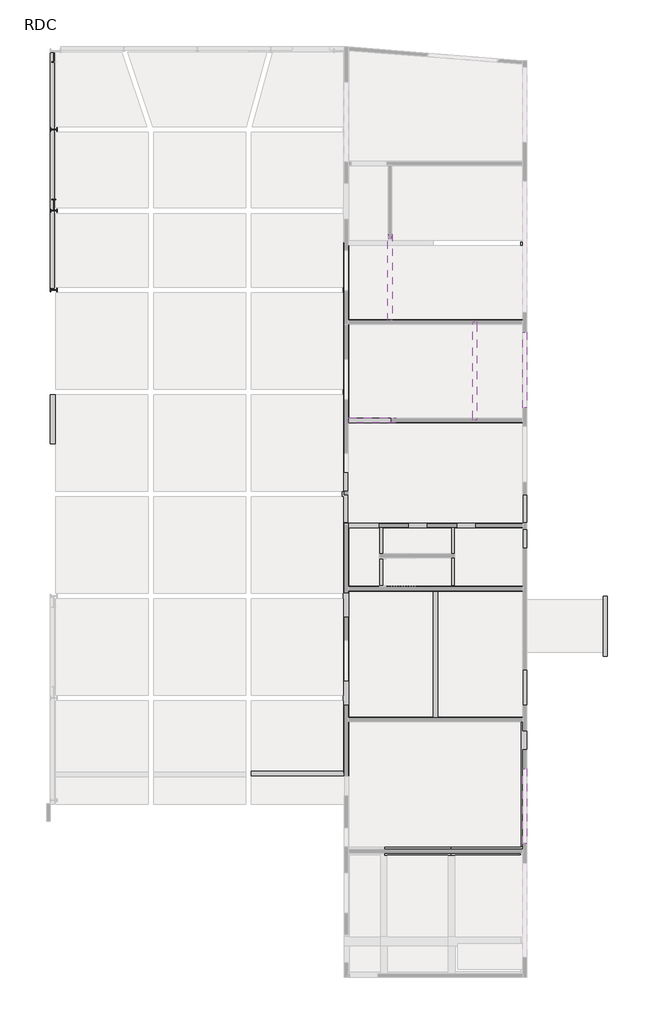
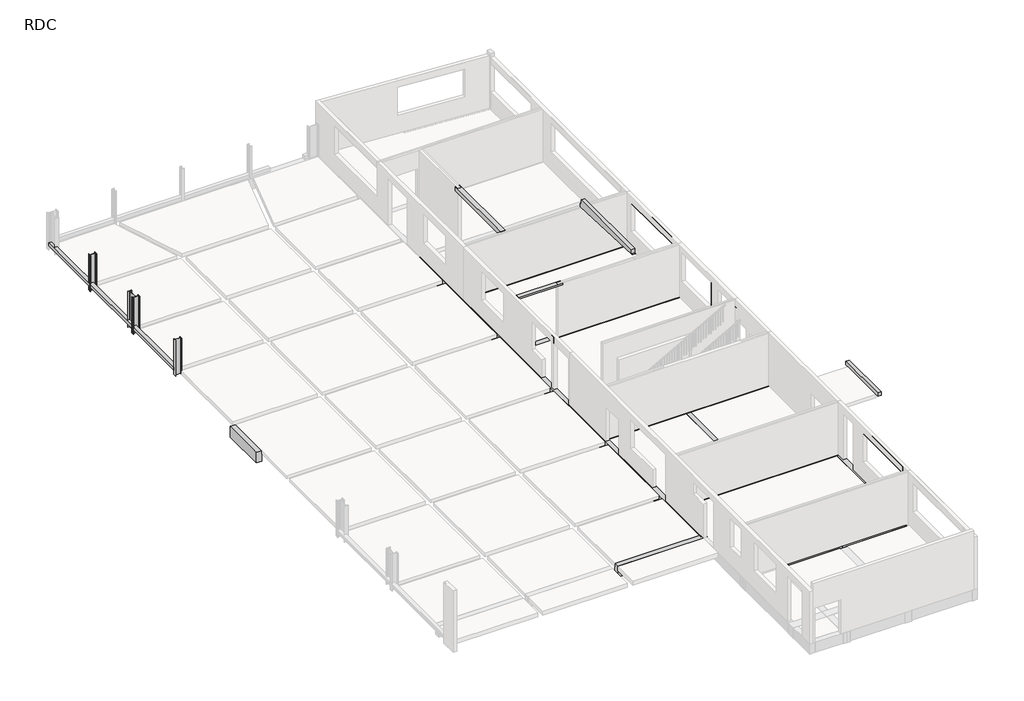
# One storey, part 3 of 4: 38 beams, 8 columns.
"""IFC4 building model written with IfcOpenShell, lengths in millimetres."""

from ifc_helpers import new_model, si_unit, frame, origin, origin_with_axes, place, context, project, spatial, polyline, outline, extrude, faceted_brep, transform, mapped, element, save
from components import ipe360_f3b70704, ipe600_4712eb6f

model = new_model("IFC4")

# Units and contexts
model_context = context("Model", 3, world=origin())
ifc_project = project(units=[si_unit("LENGTHUNIT", "METRE", prefix="MILLI")], contexts=[model_context])

# Site, building, storey
site = spatial("IfcSite", under=ifc_project)
building = spatial("IfcBuilding", under=site)
storey = spatial("IfcBuildingStorey", under=building, Name="RDC", Elevation=0.0)

# Beams
placement = place(None, origin())
element("IfcBeam", 1, ObjectType="Relevé : 20x20h", at=placement, inside=storey, context=model_context, shape_type="Brep", body=[
    faceted_brep([(14769.048278, 62835.2867291, 200.0), (14769.048278, 62835.2867291, 0.0), (14969.048278, 62835.2867291, 0.0), (14969.048278, 62835.2867291, 200.0), (14769.048278, 75324.2867291, 200.0), (14969.048278, 75324.2867291, 200.0), (14969.048278, 75324.2867291, 0.0), (14769.048278, 75324.2867291, 0.0), (14769.048278, 71335.7608439, 0.0), (14769.048278, 71164.2771549, 0.0), (14769.048278, 66799.8020807, 0.0)], [[[0, 1, 2, 3]], [[4, 5, 6, 7]], [[1, 0, 4, 7, 8, 9, 10]], [[2, 1, 10, 9, 8, 7, 6]], [[3, 2, 6, 5]], [[0, 3, 5, 4]]]),
])
element("IfcBeam", 2, ObjectType="Relevé : 20x20h", at=placement, inside=storey, context=model_context, shape_type="SweptSolid", body=[
    extrude(outline(polyline([(44059.0482776, 46542.4600761), (44259.0482776, 46542.4600761), (44259.0482776, 43363.0600761), (44059.0482776, 43363.0600761), (44059.0482776, 46542.4600761)])), frame((0.0, 0.0, -20.0), z_axis=(0.0, 0.0, 1.0), x_axis=(1.0, 0.0, 0.0)), (0.0, 0.0, 1.0), 200.0),
])
element("IfcBeam", 3, ObjectType="Longrine : 20x65h", at=placement, inside=storey, context=model_context, shape_type="Brep", body=[
    faceted_brep([(36189.0482771, 50379.8020815, -650.0), (36189.0482771, 50379.8020815, 0.0), (36189.0482771, 50129.8020815, 0.0), (36189.0482771, 48779.8020815, 0.0), (36189.0482771, 48579.8020815, 0.0), (36189.0482771, 47079.8020813, 0.0), (36189.0482771, 47079.8020813, -200.0), (36189.0482771, 47079.8020813, -650.0), (36189.0482771, 50129.8020815, -650.0), (35989.0482771, 50379.8020815, -650.0), (35989.0482771, 47079.8020813, -650.0), (35989.0482771, 48579.8020815, -650.0), (35989.0482771, 48779.8020815, -650.0), (35989.0482771, 50129.8020815, -650.0), (35989.0482771, 50379.8020815, 0.0), (35989.0482771, 47079.8020813, -200.0), (35989.0482771, 47079.8020813, 0.0), (35989.0482771, 48579.8020815, 0.0), (35989.0482771, 48779.8020815, 0.0), (35989.0482771, 50129.8020815, 0.0)], [[[0, 1, 2, 3, 4, 5, 6, 7, 8]], [[9, 0, 8, 7, 10, 11, 12, 13]], [[14, 9, 13, 12, 11, 10, 15, 16, 17, 18, 19]], [[1, 14, 19, 18, 17, 16, 5, 4, 3, 2]], [[1, 0, 9, 14]], [[7, 6, 5, 16, 15, 10]]]),
])
element("IfcBeam", 4, ObjectType="Longrine : 20x65h", at=placement, inside=storey, context=model_context, shape_type="Brep", body=[
    faceted_brep([(32199.048278, 50379.8020815, 0.0), (32199.048278, 50379.8020815, -650.0), (32199.048278, 50129.8020815, -650.0), (32199.048278, 47079.8020813, -650.0), (32199.048278, 47079.8020813, -200.0), (32199.048278, 47079.8020813, 0.0), (32199.048278, 48579.8020815, 0.0), (32199.048278, 48779.8020815, 0.0), (32199.048278, 50129.8020815, 0.0), (32399.048278, 50379.8020815, -650.0), (32399.048278, 50129.8020815, -650.0), (32399.048278, 48779.8020815, -650.0), (32399.048278, 48579.8020815, -650.0), (32399.048278, 47079.8020813, -650.0), (32399.048278, 50379.8020815, 0.0), (32399.048278, 50129.8020815, 0.0), (32399.048278, 48779.8020815, 0.0), (32399.048278, 48579.8020815, 0.0), (32399.048278, 47079.8020813, 0.0), (32399.048278, 47079.8020813, -200.0)], [[[0, 1, 2, 3, 4, 5, 6, 7, 8]], [[1, 9, 10, 11, 12, 13, 3, 2]], [[9, 14, 15, 16, 17, 18, 19, 13, 12, 11, 10]], [[14, 0, 8, 7, 6, 5, 18, 17, 16, 15]], [[1, 0, 14, 9]], [[5, 4, 3, 13, 19, 18]]]),
])
element("IfcBeam", 5, ObjectType="Longrine : 20x65h", at=placement, inside=storey, context=model_context, shape_type="Brep", body=[
    faceted_brep([(35989.0482771, 48779.8020815, 0.0), (35989.0482771, 48779.8020815, -200.0), (35989.0482771, 48779.8020815, -650.0), (32399.048278, 48779.8020815, -650.0), (32399.048278, 48779.8020815, -200.0), (32399.048278, 48779.8020815, 0.0), (35989.0482771, 48579.8020815, -650.0), (32399.048278, 48579.8020815, -650.0), (35989.0482771, 48579.8020815, -200.0), (35989.0482771, 48579.8020815, 0.0), (32399.048278, 48579.8020815, 0.0), (32399.048278, 48579.8020815, -200.0)], [[[0, 1, 2, 3, 4, 5]], [[2, 6, 7, 3]], [[6, 8, 9, 10, 11, 7]], [[9, 0, 5, 10]], [[2, 1, 0, 9, 8, 6]], [[5, 4, 3, 7, 11, 10]]]),
])
element("IfcBeam", 6, ObjectType="Longrine : 30x65h", at=placement, inside=storey, context=model_context, shape_type="Brep", body=[
    faceted_brep([(39989.0482781, 61149.8020814, -650.0), (39989.0482781, 61149.8020814, 0.0), (39989.0482781, 55699.8020814, 0.0), (39989.0482781, 55699.8020814, -650.0), (39689.0482781, 61149.8020814, -650.0), (39689.0482781, 55699.8020814, -650.0), (39689.0482781, 55999.8020814, -650.0), (39689.0482781, 60899.8020814, -650.0), (39689.0482781, 61149.8020814, 0.0), (39689.0482781, 55699.8020814, -200.0), (39689.0482781, 55699.8020814, 0.0), (39689.0482781, 55999.8020814, 0.0), (39689.0482781, 55999.8020814, -200.0), (39689.0482781, 60899.8020814, -200.0), (39689.0482781, 60899.8020814, 0.0), (39789.0482781, 61149.8020814, 0.0), (39789.0482781, 60899.8020814, 0.0), (39789.0482781, 55999.8020814, 0.0), (39789.0482781, 55699.8020814, 0.0), (39789.0482781, 55999.8020814, -200.0), (39789.0482781, 60899.8020814, -200.0)], [[[0, 1, 2, 3]], [[4, 0, 3, 5, 6, 7]], [[8, 4, 7, 6, 5, 9, 10, 11, 12, 13, 14]], [[1, 15, 8, 14, 16, 17, 11, 10, 18, 2]], [[1, 0, 4, 8, 15]], [[3, 2, 18, 10, 9, 5]], [[19, 20, 13, 12]], [[20, 16, 14, 13]], [[17, 19, 12, 11]], [[20, 19, 17, 16]]]),
])
element("IfcBeam", 7, ObjectType="Longrine : 30x65h", at=placement, inside=storey, context=model_context, shape_type="Brep", body=[
    faceted_brep([(39989.0482781, 39849.8020813, 0.0), (39989.0482781, 39849.8020813, -650.0), (39989.0482781, 43362.7519336, -650.0), (39989.0482781, 43562.7519336, -650.0), (39989.0482781, 46342.7522291, -650.0), (39989.0482781, 46529.8020813, -650.0), (39989.0482781, 46542.7522291, -650.0), (39989.0482781, 47029.8020813, -650.0), (39989.0482781, 47029.8020813, 0.0), (39989.0482781, 42651.8519336, 0.0), (39989.0482781, 40761.8519336, 0.0), (39689.0482781, 39849.8020813, -650.0), (39689.0482781, 40149.8020813, -650.0), (39689.0482781, 43362.7519336, -650.0), (39689.0482781, 43562.7519336, -650.0), (39689.0482781, 46342.7522291, -650.0), (39689.0482781, 46529.8020813, -650.0), (39689.0482781, 46779.8020813, -650.0), (39689.0482781, 47029.8020813, -650.0), (39689.0482781, 39849.8020813, 0.0), (39689.0482781, 40149.8020813, 0.0), (39689.0482781, 40149.8020813, -200.0), (39689.0482781, 46779.8020813, -200.0), (39689.0482781, 46779.8020813, 0.0), (39689.0482781, 47029.8020813, 0.0), (39789.0482781, 47029.8020813, 0.0), (39789.0482781, 46779.8020813, 0.0), (39789.0482781, 42651.8519336, 0.0), (39789.0482781, 40761.8519336, 0.0), (39789.0482781, 40149.8020813, 0.0), (39789.0482781, 40149.8020813, -200.0), (39789.0482781, 46779.8020813, -200.0)], [[[0, 1, 2, 3, 4, 5, 6, 7, 8, 9, 10]], [[1, 11, 12, 13, 14, 15, 16, 17, 18, 7, 6, 5, 4, 3, 2]], [[11, 19, 20, 21, 22, 23, 24, 18, 17, 16, 15, 14, 13, 12]], [[19, 0, 10, 9, 8, 25, 24, 23, 26, 27, 28, 29, 20]], [[1, 0, 19, 11]], [[8, 7, 18, 24, 25]], [[30, 31, 22, 21]], [[31, 30, 29, 28, 27, 26]], [[29, 30, 21, 20]], [[31, 26, 23, 22]]]),
])
element("IfcBeam", 8, ObjectType="Longrine : 30x65h", at=placement, inside=storey, context=model_context, shape_type="Brep", body=[
    faceted_brep([(39989.0482781, 50129.8020815, 0.0), (39989.0482781, 50129.8020815, -650.0), (39989.0482781, 55699.8020814, -650.0), (39989.0482781, 55699.8020814, 0.0), (39989.0482781, 52574.8020814, 0.0), (39989.0482781, 51924.8020814, 0.0), (39989.0482781, 51919.8020814, 0.0), (39989.0482781, 50429.8020814, 0.0), (39689.0482781, 50129.8020815, -650.0), (39689.0482781, 50429.8020815, -650.0), (39689.0482781, 55699.8020814, -650.0), (39689.0482781, 50129.8020815, -200.0), (39689.0482781, 50129.8020815, 0.0), (39689.0482781, 50429.8020815, 0.0), (39689.0482781, 50429.8020815, -200.0), (39689.0482781, 55699.8020814, -200.0), (39789.0482781, 50129.8020815, 0.0), (39789.0482781, 55699.8020814, 0.0), (39789.0482781, 52574.8020814, 0.0), (39789.0482781, 51924.8020814, 0.0), (39789.0482781, 51919.8020814, 0.0), (39789.0482781, 50429.8020815, 0.0), (39789.0482781, 50429.8020815, -200.0), (39789.0482781, 55699.8020814, -200.0)], [[[0, 1, 2, 3, 4, 5, 6, 7]], [[1, 8, 9, 10, 2]], [[8, 11, 12, 13, 14, 15, 10, 9]], [[12, 16, 0, 7, 6, 5, 4, 3, 17, 18, 19, 20, 21, 13]], [[1, 0, 16, 12, 11, 8]], [[22, 23, 15, 14]], [[23, 22, 21, 20, 19, 18, 17]], [[21, 22, 14, 13]], [[2, 10, 15, 23, 17, 3]]]),
])
element("IfcBeam", 9, ObjectType="Longrine : 30x65h", at=placement, inside=storey, context=model_context, shape_type="Brep", body=[
    faceted_brep([(39989.0482781, 50129.8020815, 0.0), (39989.0482781, 50069.8020814, 0.0), (39989.0482781, 49069.8020814, 0.0), (39989.0482781, 47029.8020813, 0.0), (39989.0482781, 47029.8020813, -650.0), (39989.0482781, 50129.8020815, -650.0), (39689.0482781, 47029.8020813, -650.0), (39689.0482781, 47079.8020813, -650.0), (39689.0482781, 50129.8020815, -650.0), (39689.0482781, 47029.8020813, 0.0), (39689.0482781, 47079.8020813, 0.0), (39689.0482781, 47079.8020813, -200.0), (39689.0482781, 50129.8020815, -200.0), (39789.0482781, 50129.8020815, 0.0), (39789.0482781, 50069.8020814, 0.0), (39789.0482781, 49069.8020814, 0.0), (39789.0482781, 47079.8020813, 0.0), (39789.0482781, 47079.8020813, -200.0), (39789.0482781, 50129.8020815, -200.0)], [[[0, 1, 2, 3, 4, 5]], [[5, 4, 6, 7, 8]], [[6, 9, 10, 11, 12, 8, 7]], [[3, 2, 1, 0, 13, 14, 15, 16, 10, 9]], [[17, 18, 12, 11]], [[18, 17, 16, 15, 14, 13]], [[16, 17, 11, 10]], [[4, 3, 9, 6]], [[0, 5, 8, 12, 18, 13]]]),
])
element("IfcBeam", 10, ObjectType="Longrine : 30x65h", at=placement, inside=storey, context=model_context, shape_type="Brep", body=[
    faceted_brep([(39989.0482781, 65289.8020814, -650.0), (39989.0482781, 65289.8020814, 0.0), (39989.0482781, 61149.8020814, 0.0), (39989.0482781, 61149.8020814, -650.0), (39689.0482781, 65289.8020814, -650.0), (39689.0482781, 61149.8020814, -650.0), (39689.0482781, 61199.8020814, -650.0), (39689.0482781, 65289.8020814, 0.0), (39689.0482781, 61149.8020814, 0.0), (39689.0482781, 61199.8020814, 0.0), (39689.0482781, 61199.8020814, -200.0), (39689.0482781, 65099.8020814, -200.0), (39689.0482781, 65099.8020814, 0.0), (39789.0482781, 65099.8020814, 0.0), (39789.0482781, 61199.8020814, 0.0), (39789.0482781, 61199.8020814, -200.0), (39789.0482781, 65099.8020814, -200.0)], [[[0, 1, 2, 3]], [[4, 0, 3, 5, 6]], [[7, 4, 6, 5, 8, 9, 10, 11, 12]], [[1, 7, 12, 13, 14, 9, 8, 2]], [[1, 0, 4, 7]], [[15, 16, 11, 10]], [[16, 13, 12, 11]], [[14, 15, 10, 9]], [[16, 15, 14, 13]], [[3, 2, 8, 5]]]),
])
element("IfcBeam", 11, ObjectType="Longrine : 30x65h", at=placement, inside=storey, context=model_context, shape_type="Brep", body=[
    faceted_brep([(39689.0482781, 39849.8020813, 0.0), (39689.0482781, 39849.8020813, -250.0), (39689.0482781, 39849.8020813, -650.0), (39689.0482781, 33279.8020807, -650.0), (39689.0482781, 33279.8020807, -250.0), (39689.0482781, 33279.8020807, 0.0), (39989.0482781, 39849.8020813, -650.0), (39989.0482781, 33279.8020807, -650.0), (39989.0482781, 39849.8020813, 0.0), (39989.0482781, 39411.8519337, 0.0), (39989.0482781, 38411.8519337, 0.0), (39989.0482781, 33279.8020807, 0.0)], [[[0, 1, 2, 3, 4, 5]], [[2, 6, 7, 3]], [[6, 8, 9, 10, 11, 7]], [[8, 0, 5, 11, 10, 9]], [[5, 4, 3, 7, 11]], [[2, 1, 0, 8, 6]]]),
])
element("IfcBeam", 12, ObjectType="Longrine : 30x65h", at=placement, inside=storey, context=model_context, shape_type="Brep", body=[
    faceted_brep([(30589.0482779, 61049.8020814, 0.0), (30589.0482779, 61049.8020814, -650.0), (30589.0482779, 61199.8020814, -650.0), (30589.0482779, 65099.8020814, -650.0), (30589.0482779, 65099.8020814, -200.0), (30589.0482779, 65099.8020814, 0.0), (30589.0482779, 61199.8020814, 0.0), (30289.0482779, 61049.8020814, -650.0), (30289.0482779, 62602.7522291, -650.0), (30289.0482779, 62902.7522291, -650.0), (30289.0482779, 65249.8020814, -650.0), (30339.0482779, 65249.8020814, -650.0), (30339.0482779, 65099.8020814, -650.0), (30289.0482779, 61049.8020814, 0.0), (30289.0482779, 62602.7522291, 0.0), (30289.0482779, 62902.7522291, 0.0), (30289.0482779, 65249.8020814, 0.0), (30339.0482779, 65099.8020814, 0.0), (30339.0482779, 65249.8020814, 0.0)], [[[0, 1, 2, 3, 4, 5, 6]], [[7, 8, 9, 10, 11, 12, 3, 2, 1]], [[10, 9, 8, 7, 13, 14, 15, 16]], [[16, 15, 14, 13, 0, 6, 5, 17, 18]], [[12, 17, 5, 4, 3]], [[0, 13, 7, 1]], [[10, 16, 18, 11]], [[17, 12, 11, 18]]]),
])
element("IfcBeam", 13, ObjectType="Longrine : 30x65h", at=placement, inside=storey, context=model_context, shape_type="Brep", body=[
    faceted_brep([(30289.0482779, 61049.8020814, 0.0), (30289.0482779, 61049.8020814, -650.0), (30289.0482779, 57499.8020807, -650.0), (30289.0482779, 57199.8020807, -650.0), (30289.0482779, 55849.8020814, -650.0), (30289.0482779, 55699.8020814, -650.0), (30289.0482779, 55699.8020814, -200.0), (30289.0482779, 55699.8020814, 0.0), (30289.0482779, 57199.8020807, 0.0), (30289.0482779, 57499.8020807, 0.0), (30589.0482779, 61049.8020814, -650.0), (30589.0482779, 60899.8020814, -650.0), (30589.0482779, 55999.8020814, -650.0), (30339.0482779, 55999.8020814, -650.0), (30339.0482779, 55699.8020814, -650.0), (30589.0482779, 61049.8020814, 0.0), (30589.0482779, 60899.8020814, 0.0), (30589.0482779, 55999.8020814, 0.0), (30589.0482779, 55999.8020814, -200.0), (30339.0482779, 55699.8020814, 0.0), (30339.0482779, 55999.8020814, 0.0)], [[[0, 1, 2, 3, 4, 5, 6, 7, 8, 9]], [[1, 10, 11, 12, 13, 14, 5, 4, 3, 2]], [[10, 15, 16, 17, 18, 12, 11]], [[15, 0, 9, 8, 7, 19, 20, 17, 16]], [[0, 15, 10, 1]], [[7, 6, 5, 14, 19]], [[20, 13, 12, 18, 17]], [[13, 20, 19, 14]]]),
])
element("IfcBeam", 14, ObjectType="Longrine : 30x65h", at=placement, inside=storey, context=model_context, shape_type="Brep", body=[
    faceted_brep([(35054.0482776, 61199.8020814, -650.0), (35054.0482776, 61199.8020814, 0.0), (39689.0482781, 61199.8020814, 0.0), (39689.0482781, 61199.8020814, -200.0), (39689.0482781, 61199.8020814, -650.0), (39689.0482781, 61149.8020814, -650.0), (39689.0482781, 60899.8020814, -650.0), (35054.0482776, 60899.8020814, -650.0), (39689.0482781, 60899.8020814, -200.0), (39689.0482781, 60899.8020814, 0.0), (35054.0482776, 60899.8020814, 0.0), (39689.0482781, 61149.8020814, 0.0)], [[[0, 1, 2, 3, 4]], [[4, 5, 6, 7, 0]], [[7, 6, 8, 9, 10]], [[10, 9, 11, 2, 1]], [[4, 3, 2, 11, 9, 8, 6, 5]], [[1, 0, 7, 10]]]),
])
element("IfcBeam", 15, ObjectType="Longrine : 30x65h", at=placement, inside=storey, context=model_context, shape_type="Brep", body=[
    faceted_brep([(35054.0482776, 60899.8020814, -650.0), (35054.0482776, 60899.8020814, 0.0), (30589.0482779, 60899.8020814, 0.0), (30589.0482779, 60899.8020814, -200.0), (30589.0482779, 60899.8020814, -650.0), (35054.0482776, 61199.8020814, -650.0), (30589.0482779, 61049.8020814, -650.0), (30589.0482779, 61199.8020814, -650.0), (35054.0482776, 61199.8020814, 0.0), (30589.0482779, 61199.8020814, -200.0), (30589.0482779, 61199.8020814, 0.0), (30589.0482779, 61049.8020814, 0.0)], [[[0, 1, 2, 3, 4]], [[5, 0, 4, 6, 7]], [[8, 5, 7, 9, 10]], [[1, 8, 10, 11, 2]], [[1, 0, 5, 8]], [[4, 3, 2, 11, 10, 9, 7, 6]]]),
])
element("IfcBeam", 16, ObjectType="Longrine : 30x65h", at=placement, inside=storey, context=model_context, shape_type="Brep", body=[
    faceted_brep([(32179.048278, 47079.8020813, -650.0), (32179.048278, 47079.8020813, 0.0), (32199.048278, 47079.8020813, 0.0), (32399.048278, 47079.8020813, 0.0), (35989.0482771, 47079.8020813, 0.0), (36189.0482771, 47079.8020813, 0.0), (39689.0482781, 47079.8020813, 0.0), (39689.0482781, 47079.8020813, -200.0), (39689.0482781, 47079.8020813, -650.0), (38279.048278, 47079.8020813, -650.0), (38079.048278, 47079.8020813, -650.0), (36189.0482771, 47079.8020813, -650.0), (35989.0482771, 47079.8020813, -650.0), (32399.048278, 47079.8020813, -650.0), (32199.048278, 47079.8020813, -650.0), (39689.0482781, 47029.8020813, -650.0), (39689.0482781, 46779.8020813, -650.0), (35314.048278, 46779.8020813, -650.0), (35014.048278, 46779.8020813, -650.0), (32179.048278, 46779.8020813, -650.0), (39689.0482781, 46779.8020813, -200.0), (39689.0482781, 46779.8020813, 0.0), (35314.048278, 46779.8020813, 0.0), (35014.048278, 46779.8020813, 0.0), (32179.048278, 46779.8020813, 0.0), (39689.0482781, 47029.8020813, 0.0)], [[[0, 1, 2, 3, 4, 5, 6, 7, 8, 9, 10, 11, 12, 13, 14]], [[8, 15, 16, 17, 18, 19, 0, 14, 13, 12, 11, 10, 9]], [[16, 20, 21, 22, 23, 24, 19, 18, 17]], [[21, 25, 6, 5, 4, 3, 2, 1, 24, 23, 22]], [[8, 7, 6, 25, 21, 20, 16, 15]], [[1, 0, 19, 24]]]),
])
element("IfcBeam", 17, ObjectType="Longrine : 30x65h", at=placement, inside=storey, context=model_context, shape_type="Brep", body=[
    faceted_brep([(32179.048278, 46779.8020813, 0.0), (30589.0482779, 46779.8020813, 0.0), (30289.0482779, 46779.8020813, 0.0), (30289.0482779, 46779.8020813, -650.0), (30589.0482779, 46779.8020813, -650.0), (32179.048278, 46779.8020813, -650.0), (30286.6553696, 47079.8020813, -650.0), (30289.0482779, 47079.8020813, -650.0), (30589.0482779, 47079.8020813, -650.0), (32179.048278, 47079.8020813, -650.0), (30289.0482779, 46929.8020813, -650.0), (30286.6553696, 46929.8020813, -650.0), (30286.6553696, 47079.8020813, -200.0), (30289.0482779, 47079.8020813, -200.0), (30289.0482779, 47079.8020813, 0.0), (30589.0482779, 47079.8020813, 0.0), (32179.048278, 47079.8020813, 0.0), (30286.6553696, 46929.8020813, -200.0), (30289.0482779, 46929.8020813, -200.0)], [[[0, 1, 2, 3, 4, 5]], [[6, 7, 8, 9, 5, 4, 3, 10, 11]], [[9, 8, 7, 6, 12, 13, 14, 15, 16]], [[14, 2, 1, 0, 16, 15]], [[6, 11, 17, 12]], [[0, 5, 9, 16]], [[11, 10, 18, 17]], [[10, 3, 2, 14, 13, 18]], [[18, 13, 12, 17]]]),
])
element("IfcBeam", 18, ObjectType="Longrine : 30x65h", at=placement, inside=storey, context=model_context, shape_type="Brep", body=[
    faceted_brep([(39689.0482781, 40149.8020813, 0.0), (39689.0482781, 40149.8020813, -200.0), (39689.0482781, 40149.8020813, -650.0), (35314.048278, 40149.8020813, -650.0), (35314.048278, 40149.8020813, -200.0), (35314.048278, 40149.8020813, 0.0), (39689.0482781, 39849.8020813, -650.0), (35014.048278, 39849.8020813, -650.0), (35014.048278, 39899.8020813, -650.0), (35314.048278, 39899.8020813, -650.0), (35014.048278, 39849.8020813, 0.0), (39689.0482781, 39849.8020813, -250.0), (39689.0482781, 39849.8020813, 0.0), (35314.048278, 39899.8020813, 0.0), (35014.048278, 39899.8020813, 0.0)], [[[0, 1, 2, 3, 4, 5]], [[2, 6, 7, 8, 9, 3]], [[10, 7, 6, 11, 12]], [[12, 0, 5, 13, 14, 10]], [[2, 1, 0, 12, 11, 6]], [[7, 10, 14, 8]], [[9, 13, 5, 4, 3]], [[13, 9, 8, 14]]]),
])
element("IfcBeam", 19, ObjectType="Longrine : 30x65h", at=placement, inside=storey, context=model_context, shape_type="Brep", body=[
    faceted_brep([(35014.048278, 39849.8020813, 0.0), (30589.0482779, 39849.8020813, 0.0), (30289.0482779, 39849.8020813, 0.0), (30289.0482779, 39849.8020813, -650.0), (30589.0482779, 39849.8020813, -650.0), (35014.048278, 39849.8020813, -650.0), (30286.6553696, 39999.8020813, -650.0), (30286.6553696, 40149.8020813, -650.0), (30289.0482779, 40149.8020813, -650.0), (30589.0482779, 40149.8020813, -650.0), (35014.048278, 40149.8020813, -650.0), (35014.048278, 39899.8020813, -650.0), (30289.0482779, 39999.8020813, -650.0), (30286.6553696, 40149.8020813, -200.0), (30289.0482779, 40149.8020813, -200.0), (30289.0482779, 40149.8020813, 0.0), (30589.0482779, 40149.8020813, 0.0), (35014.048278, 40149.8020813, 0.0), (35014.048278, 40149.8020813, -200.0), (35014.048278, 39899.8020813, 0.0), (30286.6553696, 39999.8020813, -200.0), (30289.0482779, 39999.8020813, -200.0)], [[[0, 1, 2, 3, 4, 5]], [[6, 7, 8, 9, 10, 11, 5, 4, 3, 12]], [[10, 9, 8, 7, 13, 14, 15, 16, 17, 18]], [[15, 2, 1, 0, 19, 17, 16]], [[7, 6, 20, 13]], [[6, 12, 21, 20]], [[12, 3, 2, 15, 14, 21]], [[10, 18, 17, 19, 0, 5, 11]], [[21, 14, 13, 20]]]),
])
element("IfcBeam", 20, ObjectType="Longrine : 30x65h", at=placement, inside=storey, context=model_context, shape_type="Brep", body=[
    faceted_brep([(35989.0482771, 50429.8020815, -650.0), (35989.0482771, 50429.8020815, 0.0), (39689.0482781, 50429.8020815, 0.0), (39689.0482781, 50429.8020815, -200.0), (39689.0482781, 50429.8020815, -650.0), (35989.0482771, 50379.8020815, -650.0), (39689.0482781, 50129.8020815, -650.0), (38279.048278, 50129.8020815, -650.0), (38079.048278, 50129.8020815, -650.0), (36189.0482771, 50129.8020815, -650.0), (36189.0482771, 50379.8020815, -650.0), (36189.0482771, 50129.8020815, 0.0), (36189.0482771, 50129.8020815, -200.0), (39689.0482781, 50129.8020815, 0.0), (35989.0482771, 50379.8020815, 0.0), (36189.0482771, 50379.8020815, 0.0)], [[[0, 1, 2, 3, 4]], [[5, 0, 4, 6, 7, 8, 9, 10]], [[11, 12, 9, 8, 7, 6, 13]], [[1, 14, 15, 11, 13, 2]], [[1, 0, 5, 14]], [[15, 10, 9, 12, 11]], [[10, 15, 14, 5]], [[4, 3, 2, 13, 6]]]),
])
element("IfcBeam", 21, ObjectType="Longrine : 30x65h", at=placement, inside=storey, context=model_context, shape_type="Brep", body=[
    faceted_brep([(32199.048278, 50429.8020815, -650.0), (32199.048278, 50429.8020815, 0.0), (35989.0482771, 50429.8020815, 0.0), (35989.0482771, 50429.8020815, -650.0), (32199.048278, 50379.8020815, -650.0), (35989.0482771, 50379.8020815, -650.0), (35989.0482771, 50129.8020815, -650.0), (32399.048278, 50129.8020815, -650.0), (32399.048278, 50379.8020815, -650.0), (32399.048278, 50129.8020815, 0.0), (32399.048278, 50129.8020815, -200.0), (35989.0482771, 50129.8020815, -200.0), (35989.0482771, 50129.8020815, 0.0), (32199.048278, 50379.8020815, 0.0), (32399.048278, 50379.8020815, 0.0), (35989.0482771, 50379.8020815, 0.0)], [[[0, 1, 2, 3]], [[4, 0, 3, 5, 6, 7, 8]], [[9, 10, 7, 6, 11, 12]], [[1, 13, 14, 9, 12, 15, 2]], [[1, 0, 4, 13]], [[14, 8, 7, 10, 9]], [[8, 14, 13, 4]], [[3, 2, 15, 12, 11, 6, 5]]]),
])
element("IfcBeam", 22, ObjectType="Longrine : 30x65h", at=placement, inside=storey, context=model_context, shape_type="Brep", body=[
    faceted_brep([(30339.0482779, 50429.8020815, -650.0), (30339.0482779, 50429.8020815, 0.0), (30539.0482779, 50429.8020815, 0.0), (30559.0482779, 50429.8020815, 0.0), (32199.048278, 50429.8020815, 0.0), (32199.048278, 50429.8020815, -650.0), (30539.0482779, 50429.8020815, -650.0), (30339.0482779, 50129.8020815, -650.0), (32199.048278, 50379.8020815, -650.0), (32199.048278, 50129.8020815, -650.0), (30589.0482779, 50129.8020815, -650.0), (30339.0482779, 50129.8020815, 0.0), (32199.048278, 50129.8020815, -200.0), (32199.048278, 50129.8020815, 0.0), (30589.0482779, 50129.8020815, 0.0), (30339.0482779, 50412.3020813, 0.0), (30339.0482779, 50319.8020815, 0.0), (32199.048278, 50379.8020815, 0.0)], [[[0, 1, 2, 3, 4, 5, 6]], [[7, 0, 6, 5, 8, 9, 10]], [[11, 7, 10, 9, 12, 13, 14]], [[1, 15, 16, 11, 14, 13, 17, 4, 3, 2]], [[1, 0, 7, 11, 16, 15]], [[5, 4, 17, 13, 12, 9, 8]]]),
])
element("IfcBeam", 23, ObjectType="Longrine : 30x65h", at=placement, inside=storey, context=model_context, shape_type="Brep", body=[
    faceted_brep([(30289.0482779, 47079.8020813, -650.0), (30289.0482779, 47079.8020813, -200.0), (30289.0482779, 47079.8020813, 0.0), (30289.0482779, 50129.8020815, 0.0), (30289.0482779, 50129.8020815, -200.0), (30289.0482779, 50129.8020815, -650.0), (30589.0482779, 47079.8020813, -650.0), (30339.0482779, 50129.8020815, -650.0), (30589.0482779, 50129.8020815, -650.0), (30589.0482779, 50129.8020815, -200.0), (30589.0482779, 50129.8020815, 0.0), (30589.0482779, 47079.8020813, 0.0), (30589.0482779, 47079.8020813, -200.0), (30339.0482779, 50129.8020815, 0.0)], [[[0, 1, 2, 3, 4, 5]], [[6, 0, 5, 7, 8]], [[8, 9, 10, 11, 12, 6]], [[2, 11, 10, 13, 3]], [[10, 9, 8, 7, 5, 4, 3, 13]], [[0, 6, 12, 11, 2, 1]]]),
])
element("IfcBeam", 24, ObjectType="Longrine : 30x65h", at=placement, inside=storey, context=model_context, shape_type="Brep", body=[
    faceted_brep([(35049.0482776, 55999.8020814, -650.0), (35049.0482776, 55999.8020814, 0.0), (39689.0482781, 55999.8020814, 0.0), (39689.0482781, 55999.8020814, -200.0), (39689.0482781, 55999.8020814, -650.0), (35049.0482776, 55699.8020814, -650.0), (39689.0482781, 55699.8020814, -650.0), (35049.0482776, 55699.8020814, 0.0), (39689.0482781, 55699.8020814, 0.0)], [[[0, 1, 2, 3, 4]], [[5, 0, 4, 6]], [[7, 5, 6, 8]], [[1, 7, 8, 2]], [[4, 3, 2, 8, 6]], [[1, 0, 5, 7]]]),
])
element("IfcBeam", 25, ObjectType="Longrine : 30x65h", at=placement, inside=storey, context=model_context, shape_type="Brep", body=[
    faceted_brep([(35049.0482776, 55999.8020814, 0.0), (35049.0482776, 55999.8020814, -650.0), (30589.0482779, 55999.8020814, -650.0), (30339.0482779, 55999.8020814, -650.0), (30339.0482779, 55999.8020814, 0.0), (30589.0482779, 55999.8020814, 0.0), (35049.0482776, 55699.8020814, -650.0), (30539.0482779, 55699.8020814, -650.0), (30339.0482779, 55699.8020814, -650.0), (35049.0482776, 55699.8020814, 0.0), (30559.0482779, 55699.8020814, 0.0), (30539.0482779, 55699.8020814, 0.0), (30339.0482779, 55699.8020814, 0.0)], [[[0, 1, 2, 3, 4, 5]], [[1, 6, 7, 8, 3, 2]], [[6, 9, 10, 11, 12, 8, 7]], [[9, 0, 5, 4, 12, 11, 10]], [[4, 3, 8, 12]], [[0, 9, 6, 1]]]),
])
element("IfcBeam", 26, ObjectType="Longrine : 30x65h", at=placement, inside=storey, context=model_context, shape_type="Brep", body=[
    faceted_brep([(35314.048278, 39899.8020813, 0.0), (35314.048278, 39899.8020813, -650.0), (35314.048278, 40149.8020813, -650.0), (35314.048278, 46779.8020813, -650.0), (35314.048278, 46779.8020813, -200.0), (35314.048278, 46779.8020813, 0.0), (35314.048278, 40149.8020813, 0.0), (35014.048278, 39899.8020813, -650.0), (35014.048278, 40149.8020813, -650.0), (35014.048278, 46779.8020813, -650.0), (35014.048278, 39899.8020813, 0.0), (35014.048278, 40149.8020813, 0.0), (35014.048278, 46779.8020813, 0.0), (35014.048278, 46779.8020813, -200.0)], [[[0, 1, 2, 3, 4, 5, 6]], [[1, 7, 8, 9, 3, 2]], [[7, 10, 11, 12, 13, 9, 8]], [[10, 0, 6, 5, 12, 11]], [[1, 0, 10, 7]], [[5, 4, 3, 9, 13, 12]]]),
])
element("IfcBeam", 27, ObjectType="Longrine : 30x65h", at=placement, inside=storey, context=model_context, shape_type="Brep", body=[
    faceted_brep([(30239.0482779, 55849.8020814, -650.0), (30239.0482779, 52099.8020807, -650.0), (30239.0482779, 51799.8020807, -650.0), (30239.0482779, 50129.8020815, -650.0), (30239.0482779, 50129.8020815, -200.0), (30239.0482779, 51799.8020807, -200.0), (30239.0482779, 51799.8020807, 0.0), (30239.0482779, 52099.8020807, 0.0), (30239.0482779, 52099.8020807, -200.0), (30239.0482779, 55849.8020814, -200.0), (30539.0482779, 50429.8020815, -650.0), (30339.0482779, 50429.8020815, -650.0), (30339.0482779, 50129.8020815, -650.0), (30289.0482779, 50129.8020815, -650.0), (30289.0482779, 55849.8020814, -650.0), (30289.0482779, 55699.8020814, -650.0), (30339.0482779, 55699.8020814, -650.0), (30539.0482779, 55699.8020814, -650.0), (30539.0482779, 50429.8020815, 0.0), (30539.0482779, 55699.8020814, 0.0), (30539.0482779, 53102.3020813, 0.0), (30539.0482779, 52102.3020813, 0.0), (30539.0482779, 51902.3020813, 0.0), (30339.0482779, 50429.8020815, 0.0), (30339.0482779, 55699.8020814, 0.0), (30289.0482779, 55699.8020814, 0.0), (30289.0482779, 52099.8020807, 0.0), (30289.0482779, 51799.8020807, 0.0), (30289.0482779, 50129.8020815, 0.0), (30339.0482779, 50129.8020815, 0.0), (30289.0482779, 50129.8020815, -200.0), (30289.0482779, 55849.8020814, -200.0), (30289.0482779, 55699.8020814, -200.0), (30289.0482779, 52099.8020807, -200.0), (30289.0482779, 51799.8020807, -200.0)], [[[0, 1, 2, 3, 4, 5, 6, 7, 8, 9]], [[10, 11, 12, 13, 3, 2, 1, 0, 14, 15, 16, 17]], [[18, 10, 17, 19, 20, 21, 22]], [[23, 18, 22, 21, 20, 19, 24, 25, 26, 7, 6, 27, 28, 29]], [[23, 11, 10, 18]], [[11, 23, 29, 12]], [[3, 13, 12, 29, 28, 30, 4]], [[14, 0, 9, 31]], [[19, 17, 16, 15, 32, 25, 24]], [[15, 14, 31, 32]], [[33, 32, 31, 9, 8]], [[26, 33, 8, 7]], [[33, 26, 25, 32]], [[30, 34, 5, 4]], [[34, 27, 6, 5]], [[27, 34, 30, 28]]]),
])
element("IfcBeam", 28, ObjectType="Longrine : 30x65h", at=placement, inside=storey, context=model_context, shape_type="Brep", body=[
    faceted_brep([(30289.0482779, 46779.8020813, 0.0), (30289.0482779, 46779.8020813, -650.0), (30289.0482779, 46699.8020807, -650.0), (30289.0482779, 46399.8020807, -650.0), (30289.0482779, 41299.8020807, -650.0), (30289.0482779, 40999.8020807, -650.0), (30289.0482779, 40149.8020813, -650.0), (30289.0482779, 40149.8020813, -200.0), (30289.0482779, 40149.8020813, 0.0), (30289.0482779, 40999.8020807, 0.0), (30289.0482779, 41299.8020807, 0.0), (30289.0482779, 46399.8020807, 0.0), (30289.0482779, 46699.8020807, 0.0), (30589.0482779, 46779.8020813, -650.0), (30589.0482779, 40149.8020813, -650.0), (30589.0482779, 46779.8020813, -200.0), (30589.0482779, 46779.8020813, 0.0), (30589.0482779, 40149.8020813, 0.0), (30589.0482779, 40149.8020813, -200.0)], [[[0, 1, 2, 3, 4, 5, 6, 7, 8, 9, 10, 11, 12]], [[1, 13, 14, 6, 5, 4, 3, 2]], [[13, 15, 16, 17, 18, 14]], [[16, 0, 12, 11, 10, 9, 8, 17]], [[13, 1, 0, 16, 15]], [[8, 7, 6, 14, 18, 17]]]),
])
element("IfcBeam", 29, ObjectType="Longrine : 30x65h", at=placement, inside=storey, context=model_context, shape_type="Brep", body=[
    faceted_brep([(30289.0482779, 37149.8020807, -650.0), (30289.0482779, 37149.8020807, 0.0), (30289.0482779, 37299.8020807, 0.0), (30289.0482779, 39849.8020813, 0.0), (30289.0482779, 39849.8020813, -650.0), (30289.0482779, 37299.8020807, -650.0), (30589.0482779, 37149.8020807, -650.0), (30589.0482779, 39849.8020813, -650.0), (30589.0482779, 37149.8020807, 0.0), (30589.0482779, 37149.8020807, -250.0), (30589.0482779, 39849.8020813, -250.0), (30589.0482779, 39849.8020813, 0.0)], [[[0, 1, 2, 3, 4, 5]], [[6, 0, 5, 4, 7]], [[8, 9, 6, 7, 10, 11]], [[1, 8, 11, 3, 2]], [[4, 3, 11, 10, 7]], [[1, 0, 6, 9, 8]]]),
])
element("IfcBeam", 30, ObjectType="Longrine : 30x65h", at=placement, inside=storey, context=model_context, shape_type="Brep", body=[
    faceted_brep([(15069.048278, 54609.7486113, 0.0), (15069.048278, 54609.7486113, -650.0), (15069.048278, 57199.8020807, -650.0), (15069.048278, 57199.8020807, -200.0), (15069.048278, 57199.8020807, 0.0), (14769.048278, 54609.7486113, -650.0), (14769.048278, 57199.8020807, -650.0), (14769.048278, 54609.7486113, 0.0), (14769.048278, 57199.8020807, 0.0)], [[[0, 1, 2, 3, 4]], [[1, 5, 6, 2]], [[5, 7, 8, 6]], [[7, 0, 4, 8]], [[0, 7, 5, 1]], [[4, 3, 2, 6, 8]]]),
])
element("IfcBeam", 31, ObjectType="Longrine : 30x65h", at=placement, inside=storey, context=model_context, shape_type="Brep", body=[
    faceted_brep([(25416.0406356, 36999.8020807, 0.0), (25416.0406356, 36999.8020807, -250.0), (25416.0406356, 36999.8020807, -650.0), (30591.4411863, 36999.8020807, -650.0), (30591.4411863, 36999.8020807, -600.0), (30591.4411863, 36999.8020807, -250.0), (30589.0482779, 36999.8020807, -250.0), (30589.0482779, 36999.8020807, 0.0), (30339.0482779, 36999.8020807, 0.0), (30289.0482779, 37149.8020807, -650.0), (30289.0482779, 37299.8020807, -650.0), (30289.0482779, 37299.8020807, -200.0), (30289.0482779, 37299.8020807, 0.0), (30289.0482779, 37149.8020807, 0.0), (25416.0406356, 37249.8020807, 0.0), (25416.0406356, 37299.8020807, 0.0), (25416.0406356, 37299.8020807, -200.0), (25416.0406356, 37299.8020807, -650.0), (25416.0406356, 37249.8020807, -650.0), (30589.0482779, 37149.8020807, -650.0), (30591.4411863, 37149.8020807, -650.0), (30589.0482779, 37149.8020807, 0.0), (30591.4411863, 37149.8020807, -600.0), (30591.4411863, 37149.8020807, -250.0), (30589.0482779, 37149.8020807, -250.0)], [[[0, 1, 2, 3, 4, 5, 6, 7, 8]], [[9, 10, 11, 12, 13]], [[2, 1, 0, 14, 15, 16, 17, 18]], [[10, 9, 19, 20, 3, 2, 18, 17]], [[12, 11, 10, 17, 16, 15]], [[13, 12, 15, 14, 0, 8, 7, 21]], [[3, 20, 22, 23, 5, 4]], [[9, 13, 21, 24, 23, 22, 20, 19]], [[24, 6, 5, 23]], [[6, 24, 21, 7]]]),
    faceted_brep([(25113.6477273, 37249.8020807, -650.0), (25113.6477273, 37299.8020807, -650.0), (25116.0406356, 37299.8020807, -650.0), (25116.0406356, 37249.8020807, -650.0), (25113.6477273, 37299.8020807, -200.0), (25116.0406356, 37299.8020807, -200.0), (25113.6477273, 37249.8020807, -200.0), (25116.0406356, 37249.8020807, -200.0)], [[[0, 1, 2, 3]], [[2, 1, 4, 5]], [[1, 0, 6, 4]], [[3, 2, 5, 7]], [[0, 3, 7, 6]], [[5, 4, 6, 7]]]),
])
element("IfcBeam", 32, ObjectType="Longrine : 50x65h", at=placement, inside=storey, context=model_context, shape_type="Brep", body=[
    faceted_brep([(35964.0482778, 33279.8020807, 0.0), (39689.0482781, 33279.8020807, 0.0), (39989.0482781, 33279.8020807, 0.0), (39989.0482781, 33279.8020807, -650.0), (39689.0482781, 33279.8020807, -650.0), (36204.0482778, 33279.8020807, -650.0), (35964.0482778, 33279.8020807, -650.0), (35964.0482778, 33279.8020807, -250.0), (39989.0482781, 33129.8020807, -650.0), (39689.0482781, 33129.8020807, -650.0), (39689.0482781, 32779.8020807, -650.0), (36204.0482778, 32779.8020807, -650.0), (35964.0482778, 32779.8020807, -650.0), (39689.0482781, 32779.8020807, -200.0), (36204.0482778, 32779.8020807, -200.0), (36204.0482778, 32779.8020807, 0.0), (35964.0482778, 32779.8020807, 0.0), (36204.0482778, 32820.2771549, 0.0), (39689.0482781, 32820.2771549, 0.0), (39689.0482781, 33129.8020807, 0.0), (39989.0482781, 33129.8020807, 0.0), (39689.0482781, 32820.2771549, -200.0), (36204.0482778, 32820.2771549, -200.0)], [[[0, 1, 2, 3, 4, 5, 6, 7]], [[6, 5, 4, 3, 8, 9, 10, 11, 12]], [[12, 11, 10, 13, 14, 15, 16]], [[2, 1, 0, 16, 15, 17, 18, 19, 20]], [[3, 2, 20, 8]], [[10, 9, 19, 18, 21, 13]], [[0, 7, 6, 12, 16]], [[21, 22, 14, 13]], [[22, 17, 15, 14]], [[17, 22, 21, 18]], [[19, 9, 8, 20]]]),
])
element("IfcBeam", 33, ObjectType="Longrine : 50x65h", at=placement, inside=storey, context=model_context, shape_type="Brep", body=[
    faceted_brep([(32449.048278, 33279.8020807, 0.0), (35964.0482778, 33279.8020807, 0.0), (35964.0482778, 33279.8020807, -650.0), (32649.048278, 33279.8020807, -650.0), (32449.048278, 33279.8020807, -650.0), (32449.048278, 33279.8020807, -250.0), (35964.0482778, 32779.8020807, -650.0), (35804.0482778, 32779.8020807, -650.0), (32649.048278, 32779.8020807, -650.0), (32449.048278, 32779.8020807, -650.0), (35964.0482778, 32779.8020807, 0.0), (35804.0482778, 32779.8020807, 0.0), (35804.0482778, 32779.8020807, -200.0), (32649.048278, 32779.8020807, -200.0), (32599.548278, 32779.8020807, -200.0), (32599.548278, 32779.8020807, 0.0), (32449.048278, 32779.8020807, 0.0), (32599.548278, 32820.2771549, 0.0), (35804.0482778, 32820.2771549, 0.0), (35804.0482778, 32820.2771549, -200.0), (32599.548278, 32820.2771549, -200.0)], [[[0, 1, 2, 3, 4, 5]], [[4, 3, 2, 6, 7, 8, 9]], [[9, 8, 7, 6, 10, 11, 12, 13, 14, 15, 16]], [[1, 0, 16, 15, 17, 18, 11, 10]], [[1, 10, 6, 2]], [[0, 5, 4, 9, 16]], [[19, 20, 14, 13, 12]], [[20, 17, 15, 14]], [[20, 19, 18, 17]], [[18, 19, 12, 11]]]),
])
element("IfcBeam", 34, ObjectType="Poutre : 20x40h", at=placement, inside=storey, context=model_context, shape_type="SweptSolid", body=[
    extrude(outline(polyline([(39989.0482781, 56524.8020814), (39789.0482781, 56524.8020814), (39789.0482781, 60524.8020814), (39989.0482781, 60524.8020814), (39989.0482781, 56524.8020814)])), frame((0.0, 0.0, 2800.0), z_axis=(0.0, 0.0, 1.0), x_axis=(1.0, 0.0, 0.0)), (0.0, 0.0, 1.0), 400.0),
])
element("IfcBeam", 35, ObjectType="Poutre : 20x40h", at=placement, inside=storey, context=model_context, shape_type="SweptSolid", body=[
    extrude(outline(polyline([(39789.0482781, 37391.301977), (39989.0482781, 37391.301977), (39989.0482781, 33440.301977), (39789.0482781, 33440.301977), (39789.0482781, 37391.301977)])), frame((0.0, 0.0, 2800.0), z_axis=(0.0, 0.0, 1.0), x_axis=(1.0, 0.0, 0.0)), (0.0, 0.0, 1.0), 400.0),
])
element("IfcBeam", 36, ObjectType="Poutre : 20x50h", at=placement, inside=storey, context=model_context, shape_type="SweptSolid", body=[
    extrude(outline(polyline([(61049.7600959, 3200.001857), (55849.8020814, 3430.0), (55949.8020814, 3430.0), (55949.8020814, 3700.0), (60949.8020814, 3700.0), (60949.8020814, 3430.0), (61059.9330907, 3430.0), (61049.7600959, 3200.001857)])), frame((37139.0482776, 0.0, 0.0), z_axis=(1.0, 0.0, 0.0), x_axis=(0.0, 1.0, 0.0)), (0.0, 0.0, 1.0), 200.0),
])
element("IfcBeam", 37, ObjectType="Poutre : 25x30h", at=placement, inside=storey, context=model_context, shape_type="Brep", body=[
    faceted_brep([(33058.5482779, 55724.8020814, 3200.0), (33058.5482779, 55724.8020814, 3130.0), (33058.5482779, 55749.8020814, 3130.0), (33058.5482779, 55749.8020814, 3200.0), (30539.0482779, 55724.8020814, 3130.0), (30539.0482779, 55724.8020814, 3200.0), (30539.0482779, 55974.8020814, 3130.0), (33058.5482779, 55974.8020814, 3130.0), (33058.5482779, 55949.8020814, 3130.0), (32829.048278, 55949.8020814, 3130.0), (32829.048278, 55749.8020814, 3130.0), (30539.0482779, 55974.8020814, 3200.0), (33058.5482779, 55974.8020814, 3200.0), (32829.048278, 55749.8020814, 3200.0), (32829.048278, 55849.8020814, 3200.0), (32829.048278, 55949.8020814, 3200.0), (33058.5482779, 55949.8020814, 3200.0)], [[[0, 1, 2, 3]], [[4, 1, 0, 5]], [[1, 4, 6, 7, 8, 9, 10, 2]], [[7, 6, 11, 12]], [[4, 5, 11, 6]], [[12, 11, 5, 0, 3, 13, 14, 15, 16]], [[15, 9, 8, 16]], [[9, 15, 14, 13, 10]], [[10, 13, 3, 2]], [[7, 12, 16, 8]]]),
])
element("IfcBeam", 38, ObjectType="Poutre : 25x50h", at=placement, inside=storey, context=model_context, shape_type="Brep", body=[
    faceted_brep([(32659.0482767, 65704.3020814, 2930.0), (32634.0482767, 65704.3020814, 2930.0), (32634.0482767, 65704.3020814, 3200.0), (32659.0482767, 65704.3020814, 3200.0), (32634.0482767, 61149.8020814, 2930.0), (32634.0482767, 61149.8020814, 3200.0), (32659.0482767, 65499.8018879, 2930.0), (32859.0482767, 65499.8018879, 2930.0), (32859.0482767, 65704.3020814, 2930.0), (32884.0482767, 65704.3020814, 2930.0), (32884.0482767, 61149.8020814, 2930.0), (32884.0482767, 65704.3020814, 3200.0), (32884.0482767, 61149.8020814, 3200.0), (32659.0482767, 65499.8018879, 3200.0), (32799.0482767, 65499.8018879, 3200.0), (32859.0482767, 65499.8018879, 3200.0), (32859.0482767, 65704.3020814, 3200.0)], [[[0, 1, 2, 3]], [[1, 4, 5, 2]], [[4, 1, 0, 6, 7, 8, 9, 10]], [[10, 9, 11, 12]], [[12, 5, 4, 10]], [[7, 6, 13, 14, 15]], [[2, 5, 12, 11, 16, 15, 14, 13, 3]], [[7, 15, 16, 8]], [[13, 6, 0, 3]], [[9, 8, 16, 11]]]),
])

# Columns
element("IfcColumn", 39, ObjectType="Poteau carre : 20 x 20cm", at=placement, inside=storey, context=model_context, shape_type="SweptSolid", body=[
    extrude(outline(polyline([(30539.0482779, 52102.3020813), (30539.0482779, 51902.3020813), (30339.0482779, 51902.3020813), (30339.0482779, 52102.3020813), (30539.0482779, 52102.3020813)])), origin_with_axes(), (0.0, 0.0, 1.0), 3200.0),
])
ipe360_shape = ipe360_f3b70704(model_context)
element("IfcColumn", 40, ObjectType="IPE-Poutrelles-Poteau : IPE360", at=placement, inside=storey, context=model_context, shape_type="MappedRepresentation", body=[
    mapped(ipe360_shape, transform((14949.048278, 71249.8020807, 0.0), x_axis=(0.0, 1.0000000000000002, 0.0), y_axis=(-1.0000000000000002, 0.0, 0.0), z_axis=(0.0, 0.0, 1.0))),
])
element("IfcColumn", 41, ObjectType="IPE-Poutrelles-Poteau : IPE360", at=placement, inside=storey, context=model_context, shape_type="MappedRepresentation", body=[
    mapped(ipe360_shape, transform((14949.048278, 66949.8020807, 0.0), x_axis=(0.0, 1.0000000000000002, 0.0), y_axis=(-1.0000000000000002, 0.0, 0.0), z_axis=(0.0, 0.0, 1.0))),
])
element("IfcColumn", 42, ObjectType="IPE-Poutrelles-Poteau : IPE360", at=placement, inside=storey, context=model_context, shape_type="MappedRepresentation", body=[
    mapped(ipe360_shape, transform((14949.048278, 62749.8020807, 0.0), x_axis=(0.0, 1.0000000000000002, 0.0), y_axis=(-1.0000000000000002, 0.0, 0.0), z_axis=(0.0, 0.0, 1.0))),
])
ipe600_shape = ipe600_4712eb6f(model_context)
element("IfcColumn", 43, ObjectType="IPE-Poutrelles-Poteau : IPE600", at=placement, inside=storey, context=model_context, shape_type="MappedRepresentation", body=[
    mapped(ipe600_shape, transform((14949.048278, 67253.8020807, 0.0), x_axis=(1.0, 0.0, 0.0), y_axis=(0.0, 1.0, 0.0), z_axis=(0.0, 0.0, 1.0))),
])
element("IfcColumn", 44, ObjectType="Poteau rectangulaire : 20 x 36cm", at=placement, inside=storey, context=model_context, shape_type="Brep", body=[
    faceted_brep([(39989.0482781, 50429.8020814, 0.0), (39989.0482781, 50129.8020815, 0.0), (39989.0482781, 50069.8020814, 0.0), (39789.0482781, 50069.8020814, 0.0), (39789.0482781, 50129.8020815, 0.0), (39789.0482781, 50179.8020815, 0.0), (39789.0482781, 50379.8020815, 0.0), (39789.0482781, 50429.8020814, 0.0), (39989.0482781, 50429.8020814, 2800.0), (39989.0482781, 50069.8020814, 2800.0), (39789.0482781, 50069.8020814, 2800.0), (39789.0482781, 50429.8020814, 2800.0)], [[[0, 1, 2, 3, 4, 5, 6, 7]], [[8, 9, 2, 1, 0]], [[9, 10, 3, 2]], [[10, 11, 7, 6, 5, 4, 3]], [[11, 8, 0, 7]], [[8, 11, 10, 9]]]),
])
element("IfcColumn", 45, ObjectType="Poteau rectangulaire : 20 x 65cm", at=placement, inside=storey, context=model_context, shape_type="SweptSolid", body=[
    extrude(outline(polyline([(39989.0482781, 52574.8020814), (39989.0482781, 51924.8020814), (39789.0482781, 51924.8020814), (39789.0482781, 52574.8020814), (39989.0482781, 52574.8020814)])), origin_with_axes(), (0.0, 0.0, 1.0), 2800.0),
])
element("IfcColumn", 46, ObjectType="Poteau rectangulaire : 20 x 98.5cm", at=placement, inside=storey, context=model_context, shape_type="SweptSolid", body=[
    extrude(outline(polyline([(39989.0482781, 56151.202291), (39789.0482781, 56151.202291), (39789.0482781, 56461.202291), (39989.0482781, 56461.202291), (39989.0482781, 56151.202291)])), frame((0.0, 0.0, 200.0), z_axis=(0.0, 0.0, 1.0), x_axis=(1.0, 0.0, 0.0)), (0.0, 0.0, 1.0), 400.0),
])

save(model, "model.ifc")
